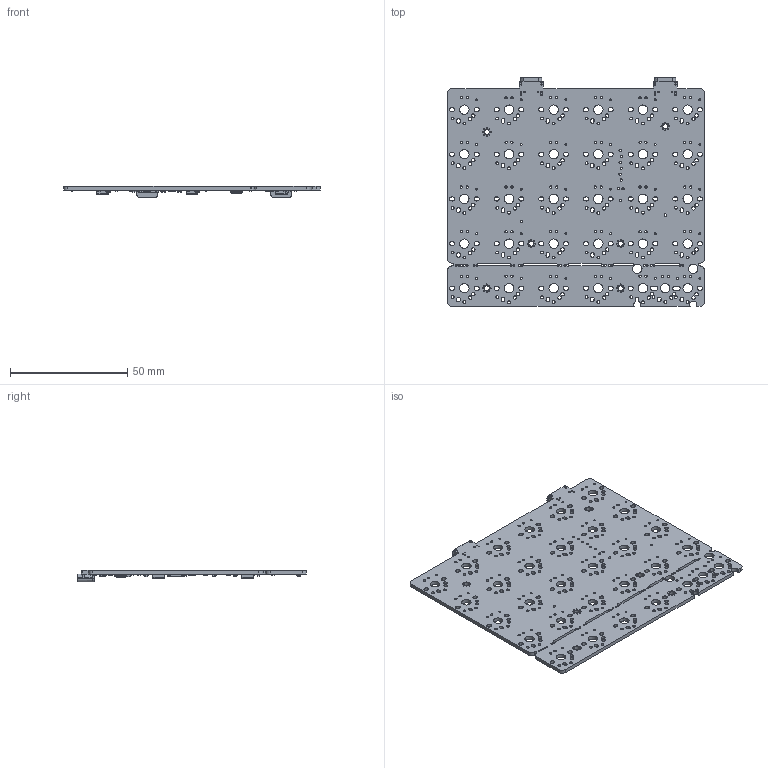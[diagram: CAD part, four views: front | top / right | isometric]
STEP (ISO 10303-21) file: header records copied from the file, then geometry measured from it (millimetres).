
FILE_DESCRIPTION(('KiCad electronic assembly'),'2;1');
FILE_NAME('nyquist-left.step','2020-12-03T16:41:41',('Pcbnew'),('Kicad') ,'Open CASCADE STEP processor 7.4','KiCad to STEP converter','Unknown' );
FILE_SCHEMA(('AUTOMOTIVE_DESIGN { 1 0 10303 214 1 1 1 1 }'));
Length unit declared in the file: millimetre
Products named in the file (26): Open CASCADE STEP translator 7.4 1; C_0603_1608Metric; SOLID; R_0805_2012Metric; R_0603_1608Metric; QFN-44-1EP_7x7mm_P0.5mm_EP5.2x5.2mm; HRO__TYPE-C-31-M-12; LED_SK6812_PLCC4_5.0x5.0mm_P3.2mm; SW_SPST_TL3342; SOT-23; D_SOD-123F; Crystal_SMD_3225-4Pin_3.2x2.5mm; SOT-363_SC-70-6; SOT-143; COMPOUND
Assembly tree (89 placements, depth 3):
  Open CASCADE STEP translator 7.4 1
    C_0603_1608Metric  x13
      SOLID
    R_0805_2012Metric
      SOLID
    R_0603_1608Metric  x40
      SOLID
    QFN-44-1EP_7x7mm_P0.5mm_EP5.2x5.2mm
      SOLID
    HRO__TYPE-C-31-M-12  x2
      SOLID
    LED_SK6812_PLCC4_5.0x5.0mm_P3.2mm  x6
      SOLID
    SW_SPST_TL3342
      SOLID
    SOT-23
      SOLID
    D_SOD-123F
      SOLID
    Crystal_SMD_3225-4Pin_3.2x2.5mm
      SOLID
    SOT-363_SC-70-6  x8
      SOLID
    SOT-143
      SOLID
    COMPOUND
Bounding box: 109.54 x 97.63 x 4.86 mm (x, y, z)
Volume: 15229.6 mm3; surface area: 24530.8 mm2
Topology: 77 solids, 78 shells, 4518 faces, 12159 edges, 7825 vertices
Faces by surface type: bspline 3750, cylinder 724, plane 44
Full cylindrical faces by diameter (mm): 0.4 x48, 0.65 x4, 0.787 x16, 0.8 x30, 0.986 x2, 0.988 x1, 0.991 x62, 1 x6, 1.092 x2, 1.2 x63, 1.47 x62, 2.2 x6, 3.988 x33
Entity records: 135891 total; most frequent: CARTESIAN_POINT 46286, ORIENTED_EDGE 10504, PCURVE 10504, DEFINITIONAL_REPRESENTATION 10504, B_SPLINE_CURVE_WITH_KNOTS 8576, DIRECTION 8182, EDGE_CURVE 5252, SURFACE_CURVE 4908
